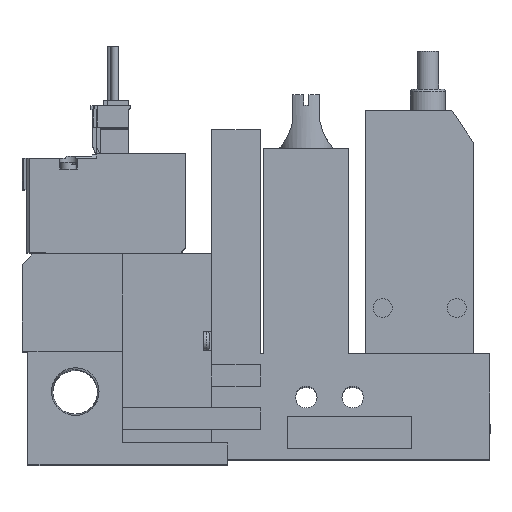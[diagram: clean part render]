
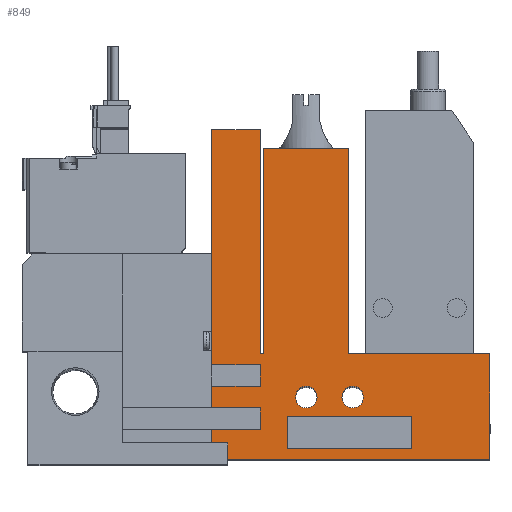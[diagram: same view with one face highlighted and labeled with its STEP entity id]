
A CAD part, top view. The second image highlights one B-rep face of the part: STEP entity #849.
In plain terms, the highlighted planar face has unit normal (0, 0, 1).
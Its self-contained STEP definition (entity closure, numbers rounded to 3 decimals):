
#849=ADVANCED_FACE('',(#1725,#1726,#1727,#1728),#1729,.T.);
#1725=FACE_OUTER_BOUND('',#2846,.T.);
#1726=FACE_BOUND('',#2847,.T.);
#1727=FACE_BOUND('',#2848,.T.);
#1728=FACE_BOUND('',#2849,.T.);
#1729=PLANE('',#2850);
#2846=EDGE_LOOP('',(#5975,#5976,#5977,#5978,#5979,#5980,#5981,#5982,#5983,#5984,#5985,#5986,#5987,#5988,#5989,#5990,#5991,#5992));
#2847=EDGE_LOOP('',(#5993,#5994,#5995,#5996));
#2848=EDGE_LOOP('',(#5997));
#2849=EDGE_LOOP('',(#5998));
#2850=AXIS2_PLACEMENT_3D('',#5999,#6000,#6001);
#5975=ORIENTED_EDGE('',*,*,#7830,.T.);
#5976=ORIENTED_EDGE('',*,*,#7848,.T.);
#5977=ORIENTED_EDGE('',*,*,#7816,.T.);
#5978=ORIENTED_EDGE('',*,*,#7850,.T.);
#5979=ORIENTED_EDGE('',*,*,#7760,.T.);
#5980=ORIENTED_EDGE('',*,*,#7875,.T.);
#5981=ORIENTED_EDGE('',*,*,#7822,.T.);
#5982=ORIENTED_EDGE('',*,*,#7873,.T.);
#5983=ORIENTED_EDGE('',*,*,#7764,.T.);
#5984=ORIENTED_EDGE('',*,*,#7879,.T.);
#5985=ORIENTED_EDGE('',*,*,#7865,.T.);
#5986=ORIENTED_EDGE('',*,*,#7862,.T.);
#5987=ORIENTED_EDGE('',*,*,#7859,.T.);
#5988=ORIENTED_EDGE('',*,*,#7856,.T.);
#5989=ORIENTED_EDGE('',*,*,#7853,.T.);
#5990=ORIENTED_EDGE('',*,*,#7705,.T.);
#5991=ORIENTED_EDGE('',*,*,#7702,.T.);
#5992=ORIENTED_EDGE('',*,*,#7709,.T.);
#5993=ORIENTED_EDGE('',*,*,#7841,.T.);
#5994=ORIENTED_EDGE('',*,*,#7838,.T.);
#5995=ORIENTED_EDGE('',*,*,#7846,.T.);
#5996=ORIENTED_EDGE('',*,*,#7844,.T.);
#5997=ORIENTED_EDGE('',*,*,#7686,.T.);
#5998=ORIENTED_EDGE('',*,*,#7692,.T.);
#5999=CARTESIAN_POINT('',(0.0,0.0,10.0));
#6000=DIRECTION('',(0.0,0.0,1.0));
#6001=DIRECTION('',(1.0,0.0,0.0));
#7686=EDGE_CURVE('',#9325,#9325,#9326,.T.);
#7692=EDGE_CURVE('',#9337,#9337,#9338,.T.);
#7702=EDGE_CURVE('',#9357,#9355,#9358,.T.);
#7705=EDGE_CURVE('',#9362,#9357,#9363,.T.);
#7709=EDGE_CURVE('',#9355,#9367,#9369,.T.);
#7760=EDGE_CURVE('',#9461,#9459,#9462,.T.);
#7764=EDGE_CURVE('',#9464,#9466,#9468,.T.);
#7816=EDGE_CURVE('',#9551,#9556,#9558,.T.);
#7822=EDGE_CURVE('',#9564,#9566,#9568,.T.);
#7830=EDGE_CURVE('',#9367,#9578,#9580,.T.);
#7838=EDGE_CURVE('',#9589,#9594,#9596,.T.);
#7841=EDGE_CURVE('',#9597,#9589,#9601,.T.);
#7844=EDGE_CURVE('',#9602,#9597,#9606,.T.);
#7846=EDGE_CURVE('',#9594,#9602,#9608,.T.);
#7848=EDGE_CURVE('',#9578,#9551,#9610,.T.);
#7850=EDGE_CURVE('',#9556,#9461,#9612,.T.);
#7853=EDGE_CURVE('',#9616,#9362,#9617,.T.);
#7856=EDGE_CURVE('',#9621,#9616,#9622,.T.);
#7859=EDGE_CURVE('',#9626,#9621,#9627,.T.);
#7862=EDGE_CURVE('',#9631,#9626,#9632,.T.);
#7865=EDGE_CURVE('',#9636,#9631,#9637,.T.);
#7873=EDGE_CURVE('',#9566,#9464,#9647,.T.);
#7875=EDGE_CURVE('',#9459,#9564,#9649,.T.);
#7879=EDGE_CURVE('',#9466,#9636,#9654,.T.);
#9325=VERTEX_POINT('',#11962);
#9326=CIRCLE('',#11963,2.0);
#9337=VERTEX_POINT('',#11978);
#9338=CIRCLE('',#11979,2.0);
#9355=VERTEX_POINT('',#12002);
#9357=VERTEX_POINT('',#12005);
#9358=LINE('',#12006,#12007);
#9362=VERTEX_POINT('',#12013);
#9363=LINE('',#12014,#12015);
#9367=VERTEX_POINT('',#12021);
#9369=LINE('',#12024,#12025);
#9459=VERTEX_POINT('',#12177);
#9461=VERTEX_POINT('',#12180);
#9462=LINE('',#12181,#12182);
#9464=VERTEX_POINT('',#12185);
#9466=VERTEX_POINT('',#12188);
#9468=LINE('',#12191,#12192);
#9551=VERTEX_POINT('',#12315);
#9556=VERTEX_POINT('',#12322);
#9558=LINE('',#12325,#12326);
#9564=VERTEX_POINT('',#12335);
#9566=VERTEX_POINT('',#12338);
#9568=LINE('',#12341,#12342);
#9578=VERTEX_POINT('',#12358);
#9580=LINE('',#12361,#12362);
#9589=VERTEX_POINT('',#12375);
#9594=VERTEX_POINT('',#12382);
#9596=LINE('',#12385,#12386);
#9597=VERTEX_POINT('',#12387);
#9601=LINE('',#12393,#12394);
#9602=VERTEX_POINT('',#12395);
#9606=LINE('',#12401,#12402);
#9608=LINE('',#12405,#12406);
#9610=LINE('',#12409,#12410);
#9612=LINE('',#12413,#12414);
#9616=VERTEX_POINT('',#12420);
#9617=LINE('',#12421,#12422);
#9621=VERTEX_POINT('',#12428);
#9622=LINE('',#12429,#12430);
#9626=VERTEX_POINT('',#12436);
#9627=LINE('',#12437,#12438);
#9631=VERTEX_POINT('',#12444);
#9632=LINE('',#12445,#12446);
#9636=VERTEX_POINT('',#12452);
#9637=LINE('',#12453,#12454);
#9647=LINE('',#12471,#12472);
#9649=LINE('',#12475,#12476);
#9654=LINE('',#12484,#12485);
#11962=CARTESIAN_POINT('',(54.6,11.5,10.0));
#11963=AXIS2_PLACEMENT_3D('',#14167,#14168,#14169);
#11978=CARTESIAN_POINT('',(63.2,11.5,10.0));
#11979=AXIS2_PLACEMENT_3D('',#14177,#14178,#14179);
#12002=CARTESIAN_POINT('',(44.1,61.0,10.0));
#12005=CARTESIAN_POINT('',(44.1,19.5,10.0));
#12006=CARTESIAN_POINT('',(44.1,19.5,10.0));
#12007=VECTOR('',#14193,1.0);
#12013=CARTESIAN_POINT('',(44.75,19.5,10.0));
#12014=CARTESIAN_POINT('',(44.75,19.5,10.0));
#12015=VECTOR('',#14196,1.0);
#12021=CARTESIAN_POINT('',(35.1,61.0,10.0));
#12024=CARTESIAN_POINT('',(44.1,61.0,10.0));
#12025=VECTOR('',#14200,1.0);
#12177=CARTESIAN_POINT('',(35.1,9.5,10.0));
#12180=CARTESIAN_POINT('',(35.1,13.5,10.0));
#12181=CARTESIAN_POINT('',(35.1,0.0,10.0));
#12182=VECTOR('',#14265,1.0);
#12185=CARTESIAN_POINT('',(35.1,5.5,10.0));
#12188=CARTESIAN_POINT('',(35.1,0.0,10.0));
#12191=CARTESIAN_POINT('',(35.1,0.0,10.0));
#12192=VECTOR('',#14269,1.0);
#12315=CARTESIAN_POINT('',(44.1,17.5,10.0));
#12322=CARTESIAN_POINT('',(44.1,13.5,10.0));
#12325=CARTESIAN_POINT('',(44.1,0.0,10.0));
#12326=VECTOR('',#14337,1.0);
#12335=CARTESIAN_POINT('',(44.1,9.5,10.0));
#12338=CARTESIAN_POINT('',(44.1,5.5,10.0));
#12341=CARTESIAN_POINT('',(44.1,0.0,10.0));
#12342=VECTOR('',#14343,1.0);
#12358=CARTESIAN_POINT('',(35.1,17.5,10.0));
#12361=CARTESIAN_POINT('',(35.1,61.0,10.0));
#12362=VECTOR('',#14351,1.0);
#12375=CARTESIAN_POINT('',(49.1,8.0,10.0));
#12382=CARTESIAN_POINT('',(72.1,8.0,10.0));
#12385=CARTESIAN_POINT('',(0.0,8.0,10.0));
#12386=VECTOR('',#14359,1.0);
#12387=CARTESIAN_POINT('',(49.1,2.0,10.0));
#12393=CARTESIAN_POINT('',(49.1,0.0,10.0));
#12394=VECTOR('',#14362,1.0);
#12395=CARTESIAN_POINT('',(72.1,2.0,10.0));
#12401=CARTESIAN_POINT('',(0.0,2.0,10.0));
#12402=VECTOR('',#14365,1.0);
#12405=CARTESIAN_POINT('',(72.1,0.0,10.0));
#12406=VECTOR('',#14367,1.0);
#12409=CARTESIAN_POINT('',(0.0,17.5,10.0));
#12410=VECTOR('',#14369,1.0);
#12413=CARTESIAN_POINT('',(0.0,13.5,10.0));
#12414=VECTOR('',#14371,1.0);
#12420=CARTESIAN_POINT('',(44.75,57.5,10.0));
#12421=CARTESIAN_POINT('',(44.75,57.5,10.0));
#12422=VECTOR('',#14374,1.0);
#12428=CARTESIAN_POINT('',(60.45,57.5,10.0));
#12429=CARTESIAN_POINT('',(60.45,57.5,10.0));
#12430=VECTOR('',#14377,1.0);
#12436=CARTESIAN_POINT('',(60.45,19.5,10.0));
#12437=CARTESIAN_POINT('',(60.45,19.5,10.0));
#12438=VECTOR('',#14380,1.0);
#12444=CARTESIAN_POINT('',(86.6,19.5,10.0));
#12445=CARTESIAN_POINT('',(86.6,19.5,10.0));
#12446=VECTOR('',#14383,1.0);
#12452=CARTESIAN_POINT('',(86.6,0.0,10.0));
#12453=CARTESIAN_POINT('',(86.6,0.0,10.0));
#12454=VECTOR('',#14386,1.0);
#12471=CARTESIAN_POINT('',(0.0,5.5,10.0));
#12472=VECTOR('',#14394,1.0);
#12475=CARTESIAN_POINT('',(0.0,9.5,10.0));
#12476=VECTOR('',#14396,1.0);
#12484=CARTESIAN_POINT('',(18.6,0.0,10.0));
#12485=VECTOR('',#14400,1.0);
#14167=CARTESIAN_POINT('',(52.6,11.5,10.0));
#14168=DIRECTION('',(0.0,0.0,-1.0));
#14169=DIRECTION('',(1.0,0.0,0.0));
#14177=CARTESIAN_POINT('',(61.2,11.5,10.0));
#14178=DIRECTION('',(0.0,0.0,-1.0));
#14179=DIRECTION('',(1.0,0.0,0.0));
#14193=DIRECTION('',(0.0,1.0,0.0));
#14196=DIRECTION('',(-1.0,0.0,0.0));
#14200=DIRECTION('',(-1.0,0.0,0.0));
#14265=DIRECTION('',(0.0,-1.0,0.0));
#14269=DIRECTION('',(0.0,-1.0,0.0));
#14337=DIRECTION('',(0.0,-1.0,0.0));
#14343=DIRECTION('',(0.0,-1.0,0.0));
#14351=DIRECTION('',(0.0,-1.0,0.0));
#14359=DIRECTION('',(1.0,0.0,0.0));
#14362=DIRECTION('',(0.0,1.0,0.0));
#14365=DIRECTION('',(-1.0,0.0,0.0));
#14367=DIRECTION('',(0.0,-1.0,0.0));
#14369=DIRECTION('',(1.0,0.0,0.0));
#14371=DIRECTION('',(-1.0,0.0,0.0));
#14374=DIRECTION('',(0.0,-1.0,0.0));
#14377=DIRECTION('',(-1.0,0.0,0.0));
#14380=DIRECTION('',(0.0,1.0,0.0));
#14383=DIRECTION('',(-1.0,0.0,0.0));
#14386=DIRECTION('',(0.0,1.0,0.0));
#14394=DIRECTION('',(-1.0,0.0,0.0));
#14396=DIRECTION('',(1.0,0.0,0.0));
#14400=DIRECTION('',(1.0,0.0,0.0));
